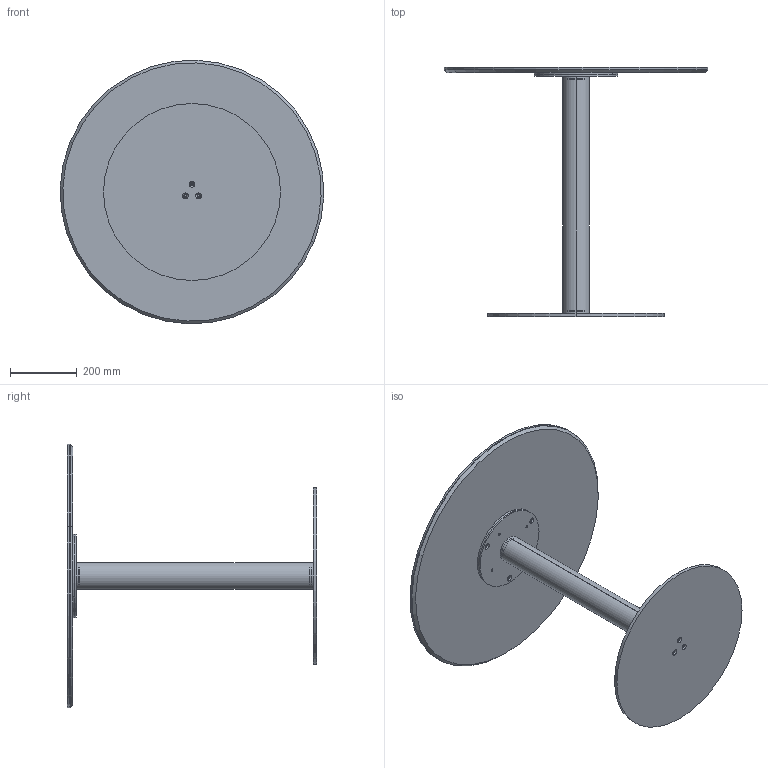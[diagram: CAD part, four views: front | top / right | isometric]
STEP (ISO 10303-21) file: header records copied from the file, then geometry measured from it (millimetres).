
FILE_DESCRIPTION (( 'STEP AP203' ), '1' );
FILE_NAME ('CB17C.STEP', '2024-08-08T08:24:38', ( '' ), ( '' ), 'SwSTEP 2.0', 'SolidWorks 2022', '' );
FILE_SCHEMA (( 'CONFIG_CONTROL_DESIGN' ));
Length unit declared in the file: millimetre
Products named in the file (7): CB17C; CBS200000PST-00-CONTROPIASTRA PER PIASTRA D.25cm GREZZO_250; P0000003-00-STAFFA DI FISSAGGIO DIAMETRO 250_P0000003-250mm normale; CBS000000COL-00-CILINDRO BISTRO COLONNA H75; KXXCXX-00-Piani Rotondi in ceramica CON PIASTRA_K12P PIANO CERAMICA D.79cm; K1XCMXX-00-Piani Rotondi in ceramica_D.790; CBS000000BAS-00-BISTRO PIASTRA INFERIORE_D.530
Assembly tree (6 placements, depth 3):
  CB17C
    CBS000000BAS-00-BISTRO PIASTRA INFERIORE_D.530
    CBS200000PST-00-CONTROPIASTRA PER PIASTRA D.25cm GREZZO_250
    CBS000000COL-00-CILINDRO BISTRO COLONNA H75
    KXXCXX-00-Piani Rotondi in ceramica CON PIASTRA_K12P PIANO CERAMICA D.79cm
      K1XCMXX-00-Piani Rotondi in ceramica_D.790
      P0000003-00-STAFFA DI FISSAGGIO DIAMETRO 250_P0000003-250mm normale
Bounding box: 789.44 x 747 x 789.44 mm (x, y, z)
Volume: 10893099.2 mm3; surface area: 3021647.8 mm2
Topology: 8 solids, 8 shells, 110 faces, 254 edges, 160 vertices
Faces by surface type: cylinder 66, cone 28, plane 16
Entity records: 4013 total; most frequent: DIRECTION 654, CARTESIAN_POINT 534, ORIENTED_EDGE 508, AXIS2_PLACEMENT_3D 280, EDGE_CURVE 254, VERTEX_POINT 160, EDGE_LOOP 160, CIRCLE 160
